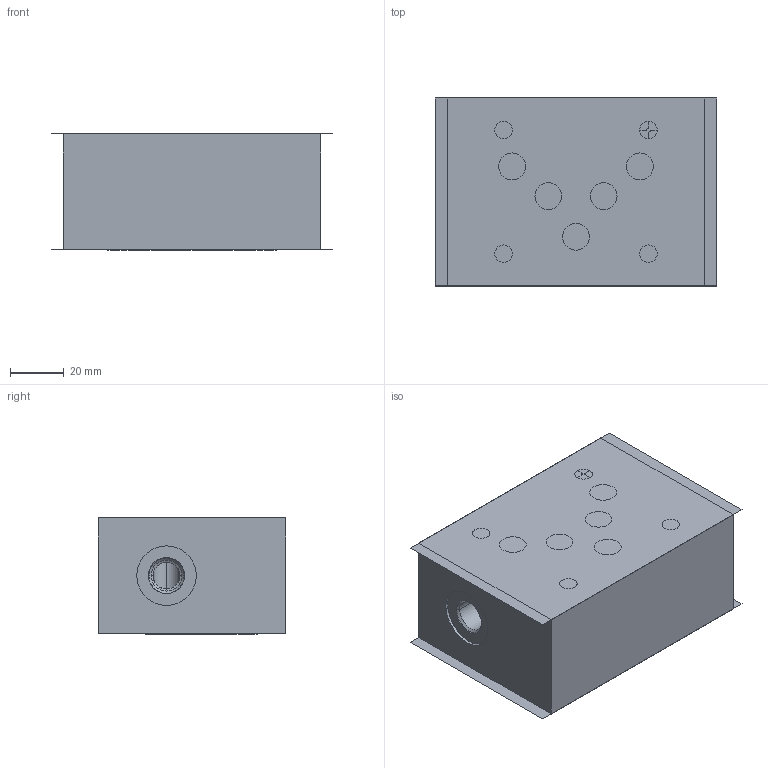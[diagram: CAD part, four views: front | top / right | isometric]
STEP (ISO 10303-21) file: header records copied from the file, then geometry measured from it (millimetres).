
FILE_DESCRIPTION((''),'2;1');
FILE_NAME('421712_ASM','2023-10-11T',('l.soukupova'),(''),'PRO/ENGINEER BY PARAMETRIC TECHNOLOGY CORPORATION, 2015440','PRO/ENGINEER BY PARAMETRIC TECHNOLOGY CORPORATION, 2015440','');
FILE_SCHEMA(('AUTOMOTIVE_DESIGN { 1 0 10303 214 1 1 1 1 }'));
Length unit declared in the file: millimetre
Products named in the file (7): 277904; DKAR00014_N70_AF5; DKAR00014_N70_AF6; DKAR00014_N70_AF7; DKAR00014_N70_AF8; DKAR00014_N70_AF9; 421712_ASM
Assembly tree (6 placements, depth 2):
  421712_ASM
    277904
    DKAR00014_N70_AF5
    DKAR00014_N70_AF6
    DKAR00014_N70_AF7
    DKAR00014_N70_AF8
    DKAR00014_N70_AF9
Bounding box: 105 x 70 x 43.28 mm (x, y, z)
Volume: 260471 mm3; surface area: 55974.1 mm2
Topology: 6 solids, 14 shells, 104 faces, 418 edges, 431 vertices
Faces by surface type: cylinder 64, plane 31, cone 9
Entity records: 6962 total; most frequent: CARTESIAN_POINT 1123, DIRECTION 880, PRESENTATION_STYLE_ASSIGNMENT 524, STYLED_ITEM 519, ORIENTED_EDGE 480, CURVE_STYLE 477, AXIS2_PLACEMENT_3D 319, EDGE_CURVE 256
